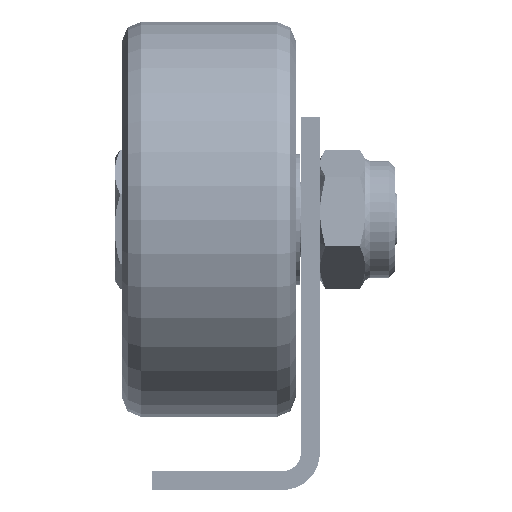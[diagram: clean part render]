
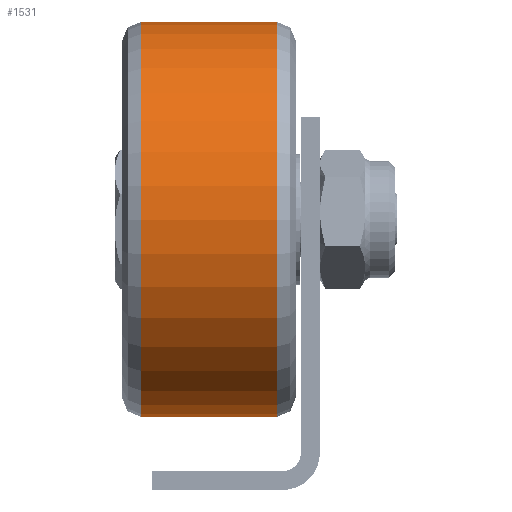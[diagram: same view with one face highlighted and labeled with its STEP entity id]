
A CAD part, front view. The second image highlights one B-rep face of the part: STEP entity #1531.
In plain terms, the highlighted cylindrical face has radius 21.15 mm (diameter 42.3 mm), a full revolution.
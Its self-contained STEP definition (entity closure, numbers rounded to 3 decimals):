
#1531 = ADVANCED_FACE( '', ( #2608, #2609 ), #2610, .T. );
#2608 = FACE_OUTER_BOUND( '', #3483, .T. );
#2609 = FACE_OUTER_BOUND( '', #3484, .T. );
#2610 = CYLINDRICAL_SURFACE( '', #3485, 21.15 );
#3483 = EDGE_LOOP( '', ( #4740 ) );
#3484 = EDGE_LOOP( '', ( #4741 ) );
#3485 = AXIS2_PLACEMENT_3D( '', #4742, #4743, #4744 );
#4740 = ORIENTED_EDGE( '', *, *, #5944, .T. );
#4741 = ORIENTED_EDGE( '', *, *, #5945, .T. );
#4742 = CARTESIAN_POINT( '', ( 0., -9.3, 0. ) );
#4743 = DIRECTION( '', ( 0., -1., 0. ) );
#4744 = DIRECTION( '', ( 0., 0., 1. ) );
#5944 = EDGE_CURVE( '', #6853, #6853, #6854, .F. );
#5945 = EDGE_CURVE( '', #6855, #6855, #6856, .T. );
#6853 = VERTEX_POINT( '', #8158 );
#6854 = CIRCLE( '', #8159, 21.15 );
#6855 = VERTEX_POINT( '', #8160 );
#6856 = CIRCLE( '', #8161, 21.15 );
#8158 = CARTESIAN_POINT( '', ( 0., 7.3, 21.15 ) );
#8159 = AXIS2_PLACEMENT_3D( '', #9179, #9180, #9181 );
#8160 = CARTESIAN_POINT( '', ( 0., -7.3, 21.15 ) );
#8161 = AXIS2_PLACEMENT_3D( '', #9182, #9183, #9184 );
#9179 = CARTESIAN_POINT( '', ( 0., 7.3, 0. ) );
#9180 = DIRECTION( '', ( 0., 1., 0. ) );
#9181 = DIRECTION( '', ( 0., 0., 1. ) );
#9182 = CARTESIAN_POINT( '', ( 0., -7.3, 0. ) );
#9183 = DIRECTION( '', ( 0., 1., 0. ) );
#9184 = DIRECTION( '', ( 0., 0., 1. ) );
